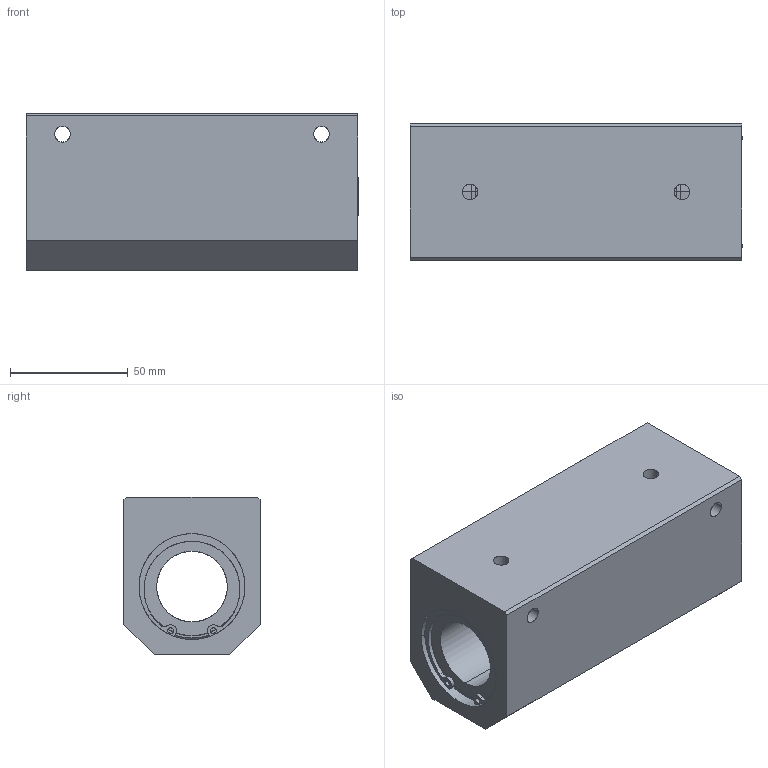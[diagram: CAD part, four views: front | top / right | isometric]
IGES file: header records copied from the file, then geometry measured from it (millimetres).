
Global section: file name: No Iges File Name specified; native system: AutoDesk Inventor R10; preprocessor: AutoDesk Inventor Iges Exporter R10; author: No Author specified; organization: No Organization specified; date: 20101216.152530; units: millimetre
Bounding box: 141 x 58 x 67 mm (x, y, z)
Surface area: 58783.9 mm2 (no closed solid volume)
Topology: 0 solids, 0 shells, 108 faces, 856 edges, 856 vertices
Faces by surface type: bspline 108
